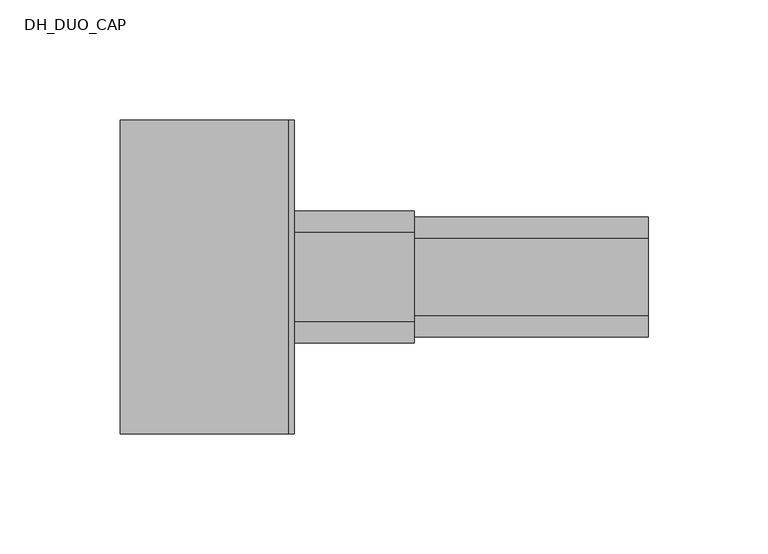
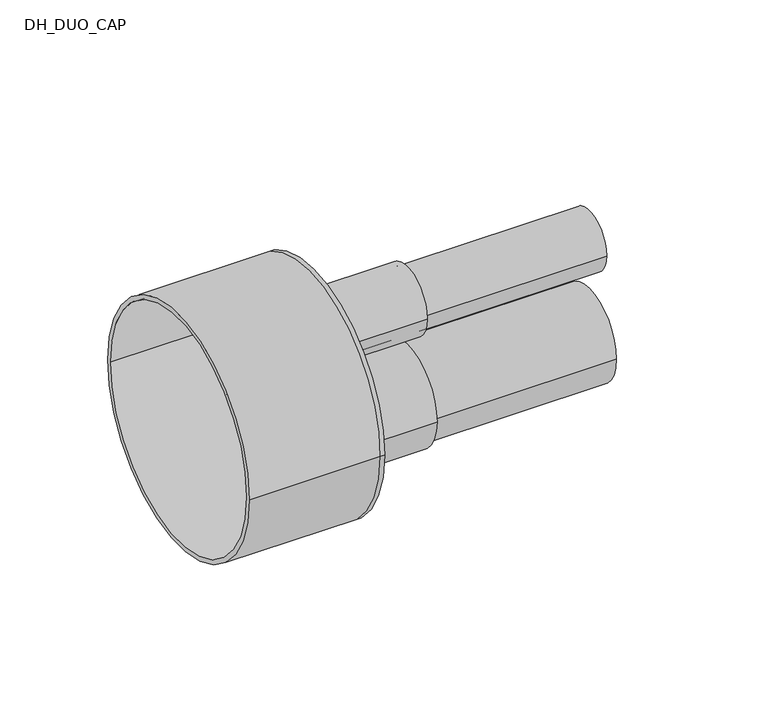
"""IFC4 building model written with IfcOpenShell, lengths in millimetres: pipe fitting geometry, DH_DUO_CAP : RAUTHERMEX DUO 7.4 DW - Schrink Cap."""

from ifc_helpers import new_model, si_unit, point, frame, frame_2d, origin, place, context, project, spatial, polyline, circle_curve, trimmed, segment, composite_curve, outline, extrude, source, transform, mapped, element, save
from ifc_brep_helpers import plane_surface, cylinder_surface, revolved_surface, advanced_brep


def dh_duo_cap_38ad7c28(model_context):
    return source(origin(), model_context, "Body", "SolidModel", [
        extrude(outline(composite_curve([segment(trimmed(circle_curve(frame_2d((0.0, -22.0)), 25.0), [point((-25.0, -22.0))], [point((25.0, -22.0))], False, "CARTESIAN"), True, "CONTINUOUS"), segment(trimmed(circle_curve(frame_2d((0.0, -22.0)), 25.0), [point((25.0, -22.0))], [point((-25.0, -22.0))], False, "CARTESIAN"), True, "CONTINUOUS")], self_intersect=False), holes=[composite_curve([segment(trimmed(circle_curve(frame_2d((0.0, -22.0)), 18.1), [point((-18.1, -22.0))], [point((18.1, -22.0))], True, "CARTESIAN"), True, "CONTINUOUS"), segment(trimmed(circle_curve(frame_2d((0.0, -22.0)), 18.1), [point((18.1, -22.0))], [point((-18.1, -22.0))], True, "CARTESIAN"), True, "CONTINUOUS")], self_intersect=False)]), frame((0.0, 0.0, 0.0), z_axis=(1.0, 0.0, 0.0), x_axis=(0.0, 1.0, 0.0)), (0.0, 0.0, 1.0), 150.0),
        extrude(outline(composite_curve([segment(trimmed(circle_curve(frame_2d((0.0, 31.0)), 16.0), [point((-16.0, 31.0))], [point((16.0, 31.0))], False, "CARTESIAN"), True, "CONTINUOUS"), segment(trimmed(circle_curve(frame_2d((0.0, 31.0)), 16.0), [point((16.0, 31.0))], [point((-16.0, 31.0))], False, "CARTESIAN"), True, "CONTINUOUS")], self_intersect=False), holes=[composite_curve([segment(trimmed(circle_curve(frame_2d((0.0, 31.0)), 11.6), [point((-11.6, 31.0))], [point((11.6, 31.0))], True, "CARTESIAN"), True, "CONTINUOUS"), segment(trimmed(circle_curve(frame_2d((0.0, 31.0)), 11.6), [point((11.6, 31.0))], [point((-11.6, 31.0))], True, "CARTESIAN"), True, "CONTINUOUS")], self_intersect=False)]), frame((0.0, 0.0, 0.0), z_axis=(1.0, 0.0, 0.0), x_axis=(0.0, 1.0, 0.0)), (0.0, 0.0, 1.0), 150.0),
        advanced_brep(
        [(-70.0, -65.5, 0.0), (-70.0, 65.5, 0.0), (-70.0, -63.0, 0.0), (-70.0, 63.0, 0.0), (0.0, -63.0, 0.0), (0.0, 63.0, 0.0), (0.0, -65.5, 0.0), (0.0, 65.5, 0.0), (0.0, 16.0, 31.0), (0.0, -16.0, 31.0), (0.0, 25.0, -22.0), (0.0, -25.0, -22.0), (2.5, -65.5, 0.0), (2.5, 65.5, 0.0), (2.5, -16.0, 31.0), (2.5, 16.0, 31.0), (2.5, -25.0, -22.0), (2.5, 25.0, -22.0)],
        [
            (0, 1, circle_curve(frame((-70.0, 0.0, 0.0), z_axis=(-1.0, 0.0, 0.0), x_axis=(0.0, 1.0, 0.0)), 65.5)),
            (1, 0, circle_curve(frame((-70.0, 0.0, 0.0), z_axis=(-1.0, 0.0, 0.0), x_axis=(0.0, 1.0, 0.0)), 65.5)),
            (2, 3, circle_curve(frame((-70.0, 0.0, 0.0), z_axis=(1.0, 0.0, 0.0), x_axis=(0.0, 1.0, 0.0)), 63.0)),
            (3, 2, circle_curve(frame((-70.0, 0.0, 0.0), z_axis=(1.0, 0.0, 0.0), x_axis=(0.0, 1.0, 0.0)), 63.0)),
            (2, 4),
            (4, 5, circle_curve(frame((0.0, 0.0, 0.0), z_axis=(1.0, 0.0, 0.0), x_axis=(0.0, 1.0, 0.0)), 63.0)),
            (5, 3),
            (5, 4, circle_curve(frame((0.0, 0.0, 0.0), z_axis=(1.0, 0.0, 0.0), x_axis=(0.0, 1.0, 0.0)), 63.0)),
            (0, 6),
            (6, 7, circle_curve(frame((0.0, 0.0, 0.0), z_axis=(-1.0, 0.0, 0.0), x_axis=(0.0, 1.0, 0.0)), 65.5)),
            (7, 1),
            (7, 6, circle_curve(frame((0.0, 0.0, 0.0), z_axis=(-1.0, 0.0, 0.0), x_axis=(0.0, 1.0, 0.0)), 65.5)),
            (8, 9, circle_curve(frame((0.0, 0.0, 31.0), z_axis=(1.0, 0.0, 0.0), x_axis=(0.0, 1.0, 0.0)), 16.0)),
            (9, 8, circle_curve(frame((0.0, 0.0, 31.0), z_axis=(1.0, 0.0, 0.0), x_axis=(0.0, 1.0, 0.0)), 16.0)),
            (10, 11, circle_curve(frame((0.0, 0.0, -22.0), z_axis=(1.0, 0.0, 0.0), x_axis=(0.0, 1.0, 0.0)), 25.0)),
            (11, 10, circle_curve(frame((0.0, 0.0, -22.0), z_axis=(1.0, 0.0, 0.0), x_axis=(0.0, 1.0, 0.0)), 25.0)),
            (12, 13, circle_curve(frame((2.5, 0.0, 0.0), z_axis=(1.0, 0.0, 0.0), x_axis=(0.0, 1.0, 0.0)), 65.5)),
            (13, 12, circle_curve(frame((2.5, 0.0, 0.0), z_axis=(1.0, 0.0, 0.0), x_axis=(0.0, 1.0, 0.0)), 65.5)),
            (14, 15, circle_curve(frame((2.5, 0.0, 31.0), z_axis=(-1.0, 0.0, 0.0), x_axis=(0.0, 1.0, 0.0)), 16.0)),
            (15, 14, circle_curve(frame((2.5, 0.0, 31.0), z_axis=(-1.0, 0.0, 0.0), x_axis=(0.0, 1.0, 0.0)), 16.0)),
            (16, 17, circle_curve(frame((2.5, 0.0, -22.0), z_axis=(-1.0, 0.0, 0.0), x_axis=(0.0, 1.0, 0.0)), 25.0)),
            (17, 16, circle_curve(frame((2.5, 0.0, -22.0), z_axis=(-1.0, 0.0, 0.0), x_axis=(0.0, 1.0, 0.0)), 25.0)),
            (13, 7),
            (6, 12),
            (8, 15),
            (14, 9),
            (10, 17),
            (16, 11),
        ],
        [
            plane_surface(frame((-70.0, 0.0, 0.0), z_axis=(-1.0, 0.0, 0.0), x_axis=(0.0, 0.0, 1.0))),
            revolved_surface(polyline([(0.0, 63.0, 0.0), (-70.0, 63.0, 0.0)]), (-70.0, 0.0, 0.0), (1.0, 0.0, 0.0)),
            cylinder_surface(frame((-70.0, 0.0, 0.0), z_axis=(-1.0, 0.0, 0.0), x_axis=(0.0, 1.0, 0.0)), 65.5),
            plane_surface(frame((0.0, 0.0, 0.0), z_axis=(-1.0, 0.0, 0.0), x_axis=(0.0, 0.0, 1.0))),
            plane_surface(frame((2.5, 0.0, 0.0), z_axis=(1.0, 0.0, 0.0), x_axis=(0.0, 0.0, 1.0))),
            cylinder_surface(frame((0.0, 0.0, 0.0), z_axis=(-1.0, 0.0, 0.0), x_axis=(0.0, 1.0, 0.0)), 65.5),
            revolved_surface(polyline([(0.0, 16.0, 31.0), (2.5, 16.0, 31.0)]), (0.0, 0.0, 31.0), (-1.0, 0.0, 0.0)),
            revolved_surface(polyline([(0.0, 25.0, -22.0), (2.5, 25.0, -22.0)]), (0.0, 0.0, -22.0), (-1.0, 0.0, 0.0)),
        ],
        [
            (0, [[1, 2], [3, 4]]),
            (1, [[-3, 5, 6, 7]]),
            (1, [[-4, -7, 8, -5]]),
            (2, [[-1, 9, 10, 11]]),
            (2, [[-2, -11, 12, -9]]),
            (3, [[-6, -8], [13, 14], [15, 16]]),
            (4, [[17, 18], [19, 20], [21, 22]]),
            (5, [[-18, 23, -10, 24]]),
            (5, [[-17, -24, -12, -23]]),
            (6, [[25, -19, 26, -13]]),
            (6, [[-25, -14, -26, -20]]),
            (7, [[27, -21, 28, -15]]),
            (7, [[-27, -16, -28, -22]]),
        ],
    ),
        extrude(outline(composite_curve([segment(trimmed(circle_curve(frame_2d((0.0, -22.0)), 27.5), [point((-27.5, -22.0))], [point((27.5, -22.0))], False, "CARTESIAN"), True, "CONTINUOUS"), segment(trimmed(circle_curve(frame_2d((0.0, -22.0)), 27.5), [point((27.5, -22.0))], [point((-27.5, -22.0))], False, "CARTESIAN"), True, "CONTINUOUS")], self_intersect=False), holes=[composite_curve([segment(trimmed(circle_curve(frame_2d((0.0, -22.0)), 25.0), [point((-25.0, -22.0))], [point((25.0, -22.0))], True, "CARTESIAN"), True, "CONTINUOUS"), segment(trimmed(circle_curve(frame_2d((0.0, -22.0)), 25.0), [point((25.0, -22.0))], [point((-25.0, -22.0))], True, "CARTESIAN"), True, "CONTINUOUS")], self_intersect=False)]), frame((2.5, 0.0, 0.0), z_axis=(1.0, 0.0, 0.0), x_axis=(0.0, 1.0, 0.0)), (0.0, 0.0, 1.0), 50.0),
        extrude(outline(composite_curve([segment(trimmed(circle_curve(frame_2d((0.0, 31.0)), 18.5), [point((-18.5, 31.0))], [point((18.5, 31.0))], False, "CARTESIAN"), True, "CONTINUOUS"), segment(trimmed(circle_curve(frame_2d((0.0, 31.0)), 18.5), [point((18.5, 31.0))], [point((-18.5, 31.0))], False, "CARTESIAN"), True, "CONTINUOUS")], self_intersect=False), holes=[composite_curve([segment(trimmed(circle_curve(frame_2d((0.0, 31.0)), 16.0), [point((-16.0, 31.0))], [point((16.0, 31.0))], True, "CARTESIAN"), True, "CONTINUOUS"), segment(trimmed(circle_curve(frame_2d((0.0, 31.0)), 16.0), [point((16.0, 31.0))], [point((-16.0, 31.0))], True, "CARTESIAN"), True, "CONTINUOUS")], self_intersect=False)]), frame((2.5, 0.0, 0.0), z_axis=(1.0, 0.0, 0.0), x_axis=(0.0, 1.0, 0.0)), (0.0, 0.0, 1.0), 50.0),
    ])


if __name__ == "__main__":
    model = new_model("IFC4")
    model_context = context("Model", 3, world=origin())
    ifc_project = project(units=[si_unit("LENGTHUNIT", "METRE", prefix="MILLI")], contexts=[model_context])
    site = spatial("IfcSite", under=ifc_project)
    building = spatial("IfcBuilding", under=site)
    placement = place(None, origin())
    dh_duo_cap_shape = dh_duo_cap_38ad7c28(model_context)
    element("IfcPipeFitting", 1, ObjectType="DH_DUO_CAP : RAUTHERMEX DUO 7.4 DW - Schrink Cap", at=placement, inside=building, context=model_context, shape_type="MappedRepresentation", body=[
        mapped(dh_duo_cap_shape, transform((0.0, 0.0, 0.0), x_axis=(1.0, 0.0, 0.0), y_axis=(0.0, 1.0, 0.0), z_axis=(0.0, 0.0, 1.0))),
    ])
    save(model, "model.ifc")
